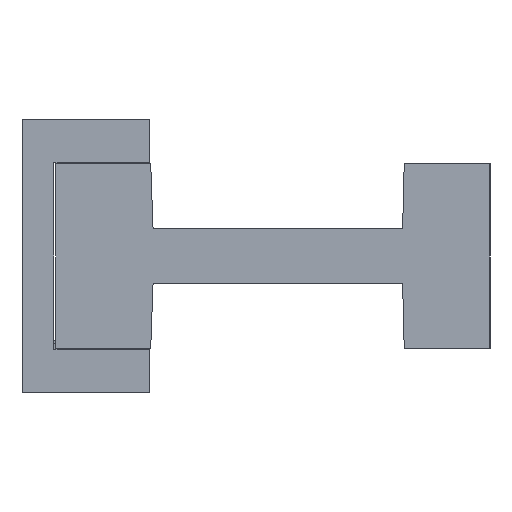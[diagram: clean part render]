
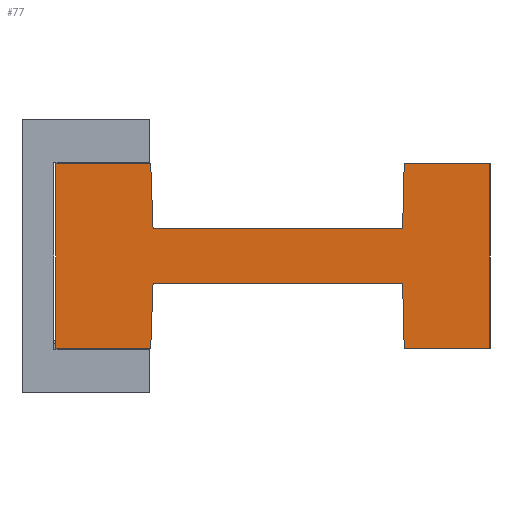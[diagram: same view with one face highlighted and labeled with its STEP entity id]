
A CAD part, left-side view. The second image highlights one B-rep face of the part: STEP entity #77.
In plain terms, the highlighted planar face has unit normal (-1, 0, 0).
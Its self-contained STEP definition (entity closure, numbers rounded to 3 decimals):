
#77 = ADVANCED_FACE ( 'NONE', ( #6797 ), #2681, .T. ) ;
#101 = ORIENTED_EDGE ( 'NONE', *, *, #2057, .T. ) ;
#121 = CARTESIAN_POINT ( 'NONE',  ( -61.487, -48.8, 240.61 ) ) ;
#368 = DIRECTION ( 'NONE',  ( 0., 0., -1. ) ) ;
#453 = LINE ( 'NONE', #3295, #2631 ) ;
#570 = EDGE_CURVE ( 'NONE', #5930, #4815, #1080, .T. ) ;
#731 = VECTOR ( 'NONE', #7338, 1000. ) ;
#767 = VERTEX_POINT ( 'NONE', #8856 ) ;
#819 = CARTESIAN_POINT ( 'NONE',  ( -61.487, -60., 255.96 ) ) ;
#847 = EDGE_CURVE ( 'NONE', #3785, #5688, #3529, .T. ) ;
#850 = CARTESIAN_POINT ( 'NONE',  ( -61.487, -16.5, 232.26 ) ) ;
#855 = DIRECTION ( 'NONE',  ( 0., 1., 0. ) ) ;
#954 = CARTESIAN_POINT ( 'NONE',  ( -61.487, -60., 232.26 ) ) ;
#955 = LINE ( 'NONE', #7363, #2683 ) ;
#1026 = VERTEX_POINT ( 'NONE', #6076 ) ;
#1080 = LINE ( 'NONE', #3311, #2157 ) ;
#1150 = ORIENTED_EDGE ( 'NONE', *, *, #3001, .T. ) ;
#1326 = ORIENTED_EDGE ( 'NONE', *, *, #3843, .T. ) ;
#1529 = CARTESIAN_POINT ( 'NONE',  ( -61.487, -60., 255.96 ) ) ;
#1543 = CARTESIAN_POINT ( 'NONE',  ( -61.487, -48.8, 247.61 ) ) ;
#1613 = DIRECTION ( 'NONE',  ( 0., 0.024, 1. ) ) ;
#1730 = CARTESIAN_POINT ( 'NONE',  ( -61.487, -16.8, 240.61 ) ) ;
#1791 = LINE ( 'NONE', #4753, #6402 ) ;
#1820 = EDGE_CURVE ( 'NONE', #8336, #9135, #2476, .T. ) ;
#1947 = ORIENTED_EDGE ( 'NONE', *, *, #847, .T. ) ;
#2004 = ORIENTED_EDGE ( 'NONE', *, *, #5039, .F. ) ;
#2057 = EDGE_CURVE ( 'NONE', #5688, #767, #1791, .T. ) ;
#2157 = VECTOR ( 'NONE', #368, 1000. ) ;
#2268 = EDGE_CURVE ( 'NONE', #4991, #3785, #2358, .T. ) ;
#2358 = LINE ( 'NONE', #1543, #3294 ) ;
#2400 = CARTESIAN_POINT ( 'NONE',  ( -61.487, -16.8, 240.61 ) ) ;
#2476 = LINE ( 'NONE', #7514, #3266 ) ;
#2631 = VECTOR ( 'NONE', #6147, 1000. ) ;
#2681 = PLANE ( 'NONE',  #4080 ) ;
#2683 = VECTOR ( 'NONE', #5989, 1000. ) ;
#2824 = VECTOR ( 'NONE', #3881, 1000. ) ;
#2974 = EDGE_CURVE ( 'NONE', #4229, #4815, #955, .T. ) ;
#3001 = EDGE_CURVE ( 'NONE', #767, #5930, #5209, .T. ) ;
#3125 = EDGE_LOOP ( 'NONE', ( #8133, #8911, #4102, #6000, #4558, #2004, #6908, #1326, #8744, #1947, #101, #1150 ) ) ;
#3266 = VECTOR ( 'NONE', #8805, 1000. ) ;
#3294 = VECTOR ( 'NONE', #5193, 1000. ) ;
#3295 = CARTESIAN_POINT ( 'NONE',  ( -61.487, -60., 244.11 ) ) ;
#3311 = CARTESIAN_POINT ( 'NONE',  ( -61.487, -4.3, 255.96 ) ) ;
#3348 = CARTESIAN_POINT ( 'NONE',  ( -61.487, -60., 244.11 ) ) ;
#3417 = CARTESIAN_POINT ( 'NONE',  ( -61.487, -16.8, 247.61 ) ) ;
#3529 = LINE ( 'NONE', #3417, #4985 ) ;
#3709 = VECTOR ( 'NONE', #855, 1000. ) ;
#3785 = VERTEX_POINT ( 'NONE', #7943 ) ;
#3843 = EDGE_CURVE ( 'NONE', #8841, #4991, #8565, .T. ) ;
#3881 = DIRECTION ( 'NONE',  ( 0., 1., 0. ) ) ;
#3988 = VECTOR ( 'NONE', #1613, 1000. ) ;
#4080 = AXIS2_PLACEMENT_3D ( 'NONE', #3348, #8432, #6194 ) ;
#4102 = ORIENTED_EDGE ( 'NONE', *, *, #5876, .F. ) ;
#4229 = VERTEX_POINT ( 'NONE', #850 ) ;
#4558 = ORIENTED_EDGE ( 'NONE', *, *, #8854, .F. ) ;
#4753 = CARTESIAN_POINT ( 'NONE',  ( -61.487, -16.8, 247.61 ) ) ;
#4815 = VERTEX_POINT ( 'NONE', #5433 ) ;
#4985 = VECTOR ( 'NONE', #8582, 1000. ) ;
#4991 = VERTEX_POINT ( 'NONE', #8223 ) ;
#5039 = EDGE_CURVE ( 'NONE', #5261, #1026, #8121, .T. ) ;
#5193 = DIRECTION ( 'NONE',  ( 0., 0.024, -1. ) ) ;
#5209 = LINE ( 'NONE', #7314, #3709 ) ;
#5261 = VERTEX_POINT ( 'NONE', #954 ) ;
#5400 = CARTESIAN_POINT ( 'NONE',  ( -61.487, -16.8, 247.61 ) ) ;
#5433 = CARTESIAN_POINT ( 'NONE',  ( -61.487, -4.3, 232.26 ) ) ;
#5688 = VERTEX_POINT ( 'NONE', #5400 ) ;
#5876 = EDGE_CURVE ( 'NONE', #9135, #4229, #5905, .T. ) ;
#5905 = LINE ( 'NONE', #2400, #731 ) ;
#5930 = VERTEX_POINT ( 'NONE', #8827 ) ;
#5989 = DIRECTION ( 'NONE',  ( 0., 1., 0. ) ) ;
#6000 = ORIENTED_EDGE ( 'NONE', *, *, #1820, .F. ) ;
#6076 = CARTESIAN_POINT ( 'NONE',  ( -61.487, -49., 232.26 ) ) ;
#6147 = DIRECTION ( 'NONE',  ( 0., 0., 1. ) ) ;
#6194 = DIRECTION ( 'NONE',  ( 0., 0., 1. ) ) ;
#6336 = DIRECTION ( 'NONE',  ( 0., 1., 0. ) ) ;
#6402 = VECTOR ( 'NONE', #7647, 1000. ) ;
#6499 = LINE ( 'NONE', #121, #3988 ) ;
#6593 = VECTOR ( 'NONE', #6336, 1000. ) ;
#6793 = CARTESIAN_POINT ( 'NONE',  ( -61.487, -60., 232.26 ) ) ;
#6797 = FACE_OUTER_BOUND ( 'NONE', #3125, .T. ) ;
#6908 = ORIENTED_EDGE ( 'NONE', *, *, #8478, .T. ) ;
#7314 = CARTESIAN_POINT ( 'NONE',  ( -61.487, -4.3, 255.96 ) ) ;
#7338 = DIRECTION ( 'NONE',  ( 0., 0.036, -0.999 ) ) ;
#7363 = CARTESIAN_POINT ( 'NONE',  ( -61.487, -4.3, 232.26 ) ) ;
#7514 = CARTESIAN_POINT ( 'NONE',  ( -61.487, -16.8, 240.61 ) ) ;
#7647 = DIRECTION ( 'NONE',  ( 0., 0.036, 0.999 ) ) ;
#7943 = CARTESIAN_POINT ( 'NONE',  ( -61.487, -48.8, 247.61 ) ) ;
#8121 = LINE ( 'NONE', #6793, #2824 ) ;
#8133 = ORIENTED_EDGE ( 'NONE', *, *, #570, .T. ) ;
#8163 = CARTESIAN_POINT ( 'NONE',  ( -61.487, -48.8, 240.61 ) ) ;
#8223 = CARTESIAN_POINT ( 'NONE',  ( -61.487, -49., 255.96 ) ) ;
#8336 = VERTEX_POINT ( 'NONE', #8163 ) ;
#8432 = DIRECTION ( 'NONE',  ( -1., 0., 0. ) ) ;
#8478 = EDGE_CURVE ( 'NONE', #5261, #8841, #453, .T. ) ;
#8565 = LINE ( 'NONE', #1529, #6593 ) ;
#8582 = DIRECTION ( 'NONE',  ( 0., 1., 0. ) ) ;
#8744 = ORIENTED_EDGE ( 'NONE', *, *, #2268, .T. ) ;
#8805 = DIRECTION ( 'NONE',  ( 0., 1., 0. ) ) ;
#8827 = CARTESIAN_POINT ( 'NONE',  ( -61.487, -4.3, 255.96 ) ) ;
#8841 = VERTEX_POINT ( 'NONE', #819 ) ;
#8854 = EDGE_CURVE ( 'NONE', #1026, #8336, #6499, .T. ) ;
#8856 = CARTESIAN_POINT ( 'NONE',  ( -61.487, -16.5, 255.96 ) ) ;
#8911 = ORIENTED_EDGE ( 'NONE', *, *, #2974, .F. ) ;
#9135 = VERTEX_POINT ( 'NONE', #1730 ) ;
